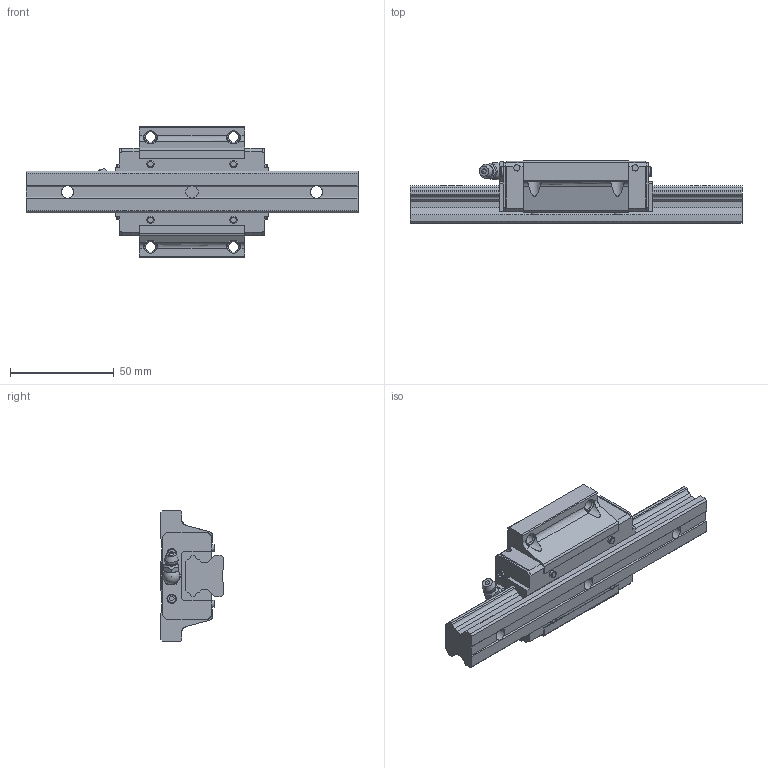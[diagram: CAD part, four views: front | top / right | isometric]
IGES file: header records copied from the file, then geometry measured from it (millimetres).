
Start section: Data from Parasolid IGES Translator 26.0.171, Copyright(c) 2006 Siemens PLM Software. All Rights Reserved.
Global section: file name: HSR20M2A1SS-160L_G20_0_B-M6F_43_0_0_0.igs; native system: By Siemens PLM Incorporated; preprocessor: XPlus GENERIC/IGES 26.0.171; author: Noname; organization: Noname; date: 20240523.085544; units: millimetre
Bounding box: 160 x 30 x 63 mm (x, y, z)
Surface area: 31450.1 mm2 (no closed solid volume)
Topology: 0 solids, 0 shells, 301 faces, 1592 edges, 1513 vertices
Faces by surface type: extrusion 212, revolution 89
